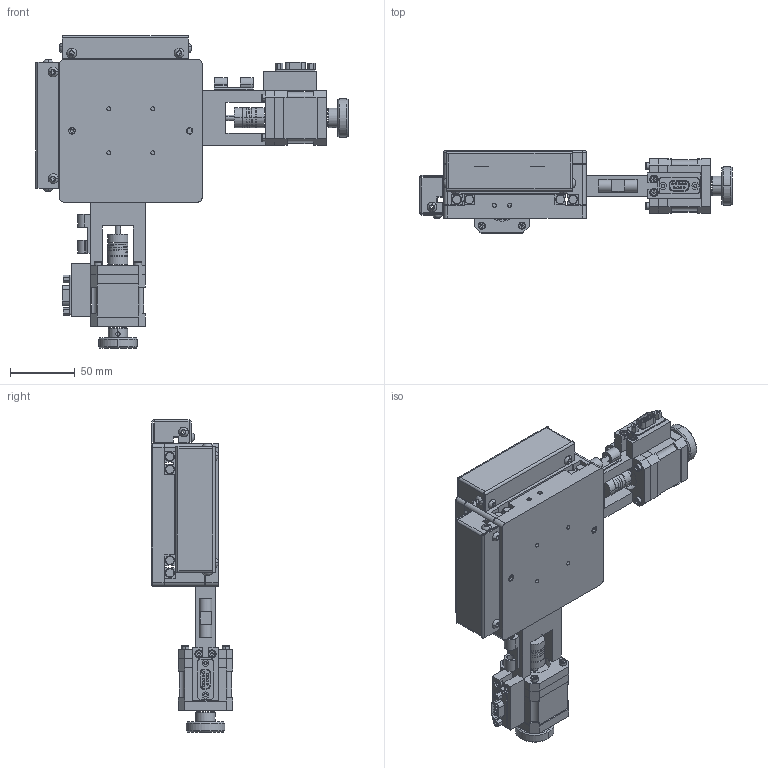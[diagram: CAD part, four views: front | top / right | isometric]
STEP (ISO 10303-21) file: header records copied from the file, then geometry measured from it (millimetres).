
FILE_DESCRIPTION (( 'STEP AP203' ), '1' );
FILE_NAME ('7SWA0450萇雄邧粣す痄怢.STEP', '2020-06-05T05:39:47', ( '' ), ( '' ), 'SwSTEP 2.0', 'SolidWorks 2018', '' );
FILE_SCHEMA (( 'CONFIG_CONTROL_DESIGN' ));
Length unit declared in the file: millimetre
Products named in the file (1): 7SWA0450萇雄邧粣す痄怢
Bounding box: 241.5 x 63.15 x 241.5 mm (x, y, z)
Surface area: 184819 mm2 (no closed solid volume)
Topology: 0 solids, 105 shells, 1306 faces, 5414 edges, 4034 vertices
Faces by surface type: plane 792, cylinder 343, cone 82, bspline 45, torus 28, sphere 16
Entity records: 64886 total; most frequent: CARTESIAN_POINT 21180, DIRECTION 8749, ORIENTED_EDGE 7990, EDGE_CURVE 5388, VERTEX_POINT 4034, LINE 3591, VECTOR 3591, AXIS2_PLACEMENT_3D 2579
